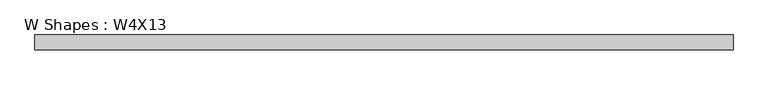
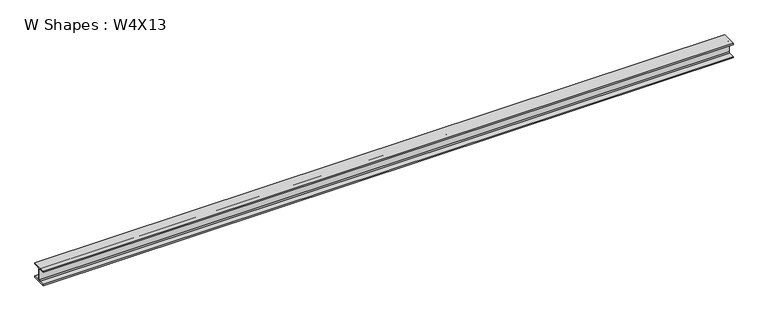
"""IFC4 building model written with IfcOpenShell, lengths in millimetres: beam geometry, W Shapes : W4X13."""

from ifc_helpers import new_model, si_unit, point, frame, frame_2d, origin, place, context, project, spatial, polyline, circle_curve, trimmed, segment, composite_curve, outline, extrude, source, transform, mapped, element, save


def w_shapes_w4x13_af738b31(model_context):
    return source(origin(), model_context, "Body", "SweptSolid", [
        extrude(outline(composite_curve([segment(polyline([(-51.562, -44.069), (-9.906, -44.069)]), True, "CONTINUOUS"), segment(trimmed(circle_curve(frame_2d((-9.906, -37.719)), 6.35), [point((-9.906, -44.069))], [point((-3.556, -37.719))], True, "CARTESIAN"), True, "CONTINUOUS"), segment(polyline([(-3.556, -37.719), (-3.556, 37.719)]), True, "CONTINUOUS"), segment(trimmed(circle_curve(frame_2d((-9.906, 37.719)), 6.35), [point((-3.556, 37.719))], [point((-9.906, 44.069))], True, "CARTESIAN"), True, "CONTINUOUS"), segment(polyline([(-9.906, 44.069), (-51.562, 44.069), (-51.562, 52.832), (51.562, 52.832), (51.562, 44.069), (9.906, 44.069)]), True, "CONTINUOUS"), segment(trimmed(circle_curve(frame_2d((9.906, 37.719)), 6.35), [point((9.906, 44.069))], [point((3.556, 37.719))], True, "CARTESIAN"), True, "CONTINUOUS"), segment(polyline([(3.556, 37.719), (3.556, -37.719)]), True, "CONTINUOUS"), segment(trimmed(circle_curve(frame_2d((9.906, -37.719)), 6.35), [point((3.556, -37.719))], [point((9.906, -44.069))], True, "CARTESIAN"), True, "CONTINUOUS"), segment(polyline([(9.906, -44.069), (51.562, -44.069), (51.562, -52.832), (-51.562, -52.832), (-51.562, -44.069)]), True, "CONTINUOUS")], self_intersect=False)), frame((-2398.273, 0.0, 0.0), z_axis=(1.0, 0.0, 0.0), x_axis=(0.0, 1.0, 0.0)), (0.0, 0.0, 1.0), 4796.546),
    ])


if __name__ == "__main__":
    model = new_model("IFC4")
    model_context = context("Model", 3, world=origin())
    ifc_project = project(units=[si_unit("LENGTHUNIT", "METRE", prefix="MILLI")], contexts=[model_context])
    site = spatial("IfcSite", under=ifc_project)
    building = spatial("IfcBuilding", under=site)
    placement = place(None, origin())
    w_shapes_w4x13_shape = w_shapes_w4x13_af738b31(model_context)
    element("IfcBeam", 1, ObjectType="W Shapes : W4X13", at=placement, inside=building, context=model_context, shape_type="MappedRepresentation", body=[
        mapped(w_shapes_w4x13_shape, transform((0.0, 0.0, 0.0), x_axis=(1.0, 0.0, 0.0), y_axis=(0.0, 1.0, 0.0), z_axis=(0.0, 0.0, 1.0))),
    ])
    save(model, "model.ifc")
